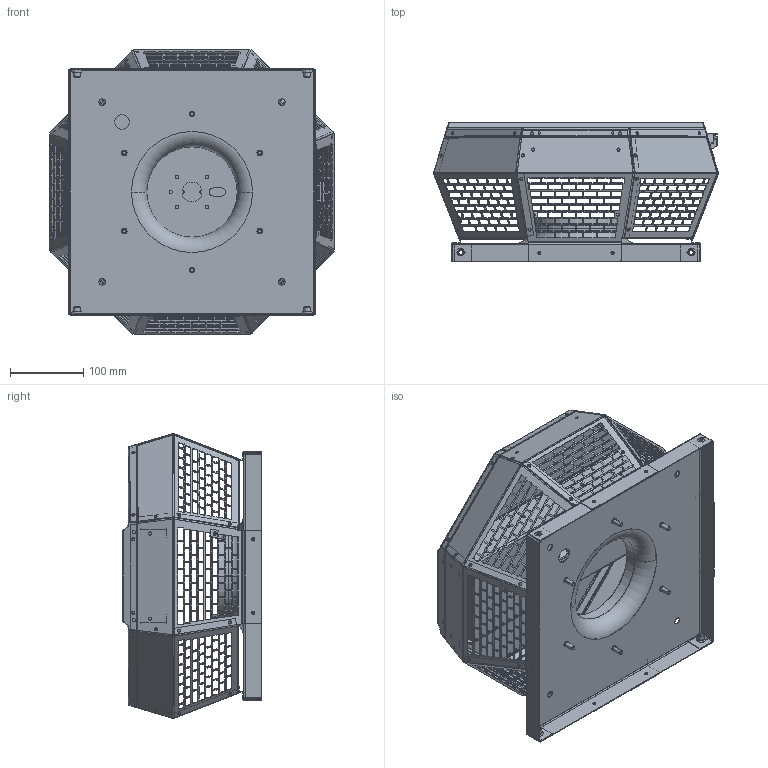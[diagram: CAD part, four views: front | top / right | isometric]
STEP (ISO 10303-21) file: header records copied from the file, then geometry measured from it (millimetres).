
FILE_DESCRIPTION (( 'STEP AP203' ), '1' );
FILE_NAME ('130469-00-DHA190E4P10.STEP', '2014-10-23T05:33:55', ( '' ), ( '' ), 'SwSTEP 2.0', 'SolidWorks 2012', '' );
FILE_SCHEMA (( 'CONFIG_CONTROL_DESIGN' ));
Length unit declared in the file: millimetre
Products named in the file (1): 130469-00-DHA190E4P10
Bounding box: 388.18 x 190.21 x 388.18 mm (x, y, z)
Surface area: 985087.4 mm2 (no closed solid volume)
Topology: 0 solids, 45 shells, 2463 faces, 8328 edges, 5668 vertices
Faces by surface type: plane 1890, cylinder 473, bspline 41, torus 37, cone 22
Entity records: 91691 total; most frequent: CARTESIAN_POINT 18232, ORIENTED_EDGE 14434, DIRECTION 13905, EDGE_CURVE 8328, LINE 7005, VECTOR 7005, VERTEX_POINT 5668, EDGE_LOOP 3646
